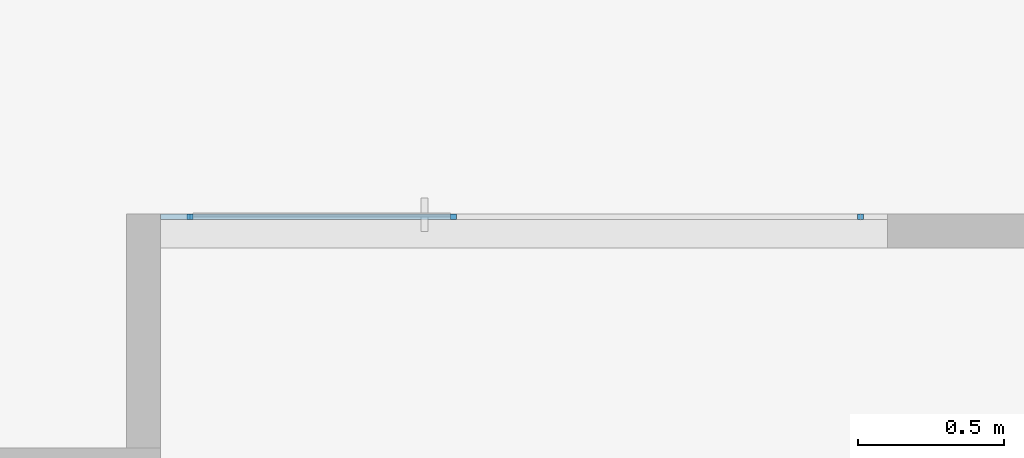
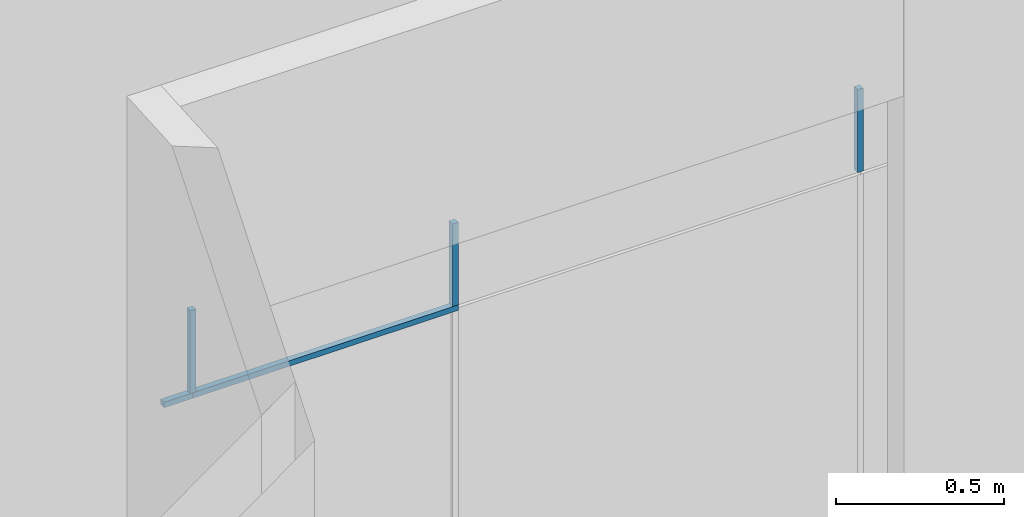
# One storey, part 10 of 46: 5 members, 1 element without a shape of its own.
"""IFC2X3 building model written with IfcOpenShell, lengths in millimetres."""

from ifc_helpers import new_model, entity, si_unit, converted_unit, derived_unit, direction, frame, origin, origin_2d_with_axis, place, context, subcontext, project, spatial, rectangle, extrude, source, transform, mapped, material, type_object, type_shapes, element, aggregate, save


model = new_model("IFC2X3")

# Units and contexts
model_context = context("Model", 3, precision=0.01, world=origin(), true_north=direction((6.12303176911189e-17, 1.0)))
body_context = subcontext(model_context, "Body", "Model", "MODEL_VIEW")
ifc_project = project(units=[si_unit("LENGTHUNIT", "METRE", prefix="MILLI"), si_unit("AREAUNIT", "SQUARE_METRE"), si_unit("VOLUMEUNIT", "CUBIC_METRE"), converted_unit("PLANEANGLEUNIT", "DEGREE", entity("IfcRatioMeasure", 0.0174532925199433), si_unit("PLANEANGLEUNIT", "RADIAN"), dimensions=[0, 0, 0, 0, 0, 0, 0]), si_unit("MASSUNIT", "GRAM", prefix="KILO"), derived_unit("MASSDENSITYUNIT", [(si_unit("MASSUNIT", "GRAM", prefix="KILO"), 1), (si_unit("LENGTHUNIT", "METRE"), -3)]), si_unit("TIMEUNIT", "SECOND"), si_unit("FREQUENCYUNIT", "HERTZ"), si_unit("THERMODYNAMICTEMPERATUREUNIT", "DEGREE_CELSIUS"), derived_unit("THERMALTRANSMITTANCEUNIT", [(si_unit("MASSUNIT", "GRAM", prefix="KILO"), 1), (si_unit("THERMODYNAMICTEMPERATUREUNIT", "KELVIN"), -1), (si_unit("TIMEUNIT", "SECOND"), -3)]), derived_unit("VOLUMETRICFLOWRATEUNIT", [(si_unit("LENGTHUNIT", "METRE"), 3), (si_unit("TIMEUNIT", "SECOND"), -1)]), si_unit("ELECTRICCURRENTUNIT", "AMPERE"), si_unit("ELECTRICVOLTAGEUNIT", "VOLT"), si_unit("POWERUNIT", "WATT"), si_unit("FORCEUNIT", "NEWTON", prefix="KILO"), si_unit("ILLUMINANCEUNIT", "LUX"), si_unit("LUMINOUSFLUXUNIT", "LUMEN"), si_unit("LUMINOUSINTENSITYUNIT", "CANDELA"), derived_unit("USERDEFINED", [(si_unit("MASSUNIT", "GRAM", prefix="KILO"), -1), (si_unit("LENGTHUNIT", "METRE"), -2), (si_unit("TIMEUNIT", "SECOND"), 3), (si_unit("LUMINOUSFLUXUNIT", "LUMEN"), 1)]), derived_unit("LINEARVELOCITYUNIT", [(si_unit("LENGTHUNIT", "METRE"), 1), (si_unit("TIMEUNIT", "SECOND"), -1)]), si_unit("PRESSUREUNIT", "PASCAL"), derived_unit("USERDEFINED", [(si_unit("LENGTHUNIT", "METRE"), -2), (si_unit("MASSUNIT", "GRAM", prefix="KILO"), 1), (si_unit("TIMEUNIT", "SECOND"), -2)])], contexts=[model_context])

# Site, building, storey
site_placement = place(None, frame((-151.875543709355, 2715.0, 0.0)))
site = spatial("IfcSite", under=ifc_project, at=site_placement, Name="Surface", CompositionType="ELEMENT")
building_placement = place(site_placement, origin())
building = spatial("IfcBuilding", under=site, at=building_placement, CompositionType="ELEMENT")
storey_placement = place(building_placement, frame((0.0, 0.0, 10060.0)))
storey = spatial("IfcBuildingStorey", under=building, at=storey_placement, Name="4 korrus", CompositionType="ELEMENT", Elevation=10060.0000000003)

# Curtain wall, members
curtain_wall_type = type_object("IfcCurtainWallType", Name="Curtain Wall:Klaassein KLS-20", PredefinedType="NOTDEFINED")
curtain_wall_placement = place(storey_placement, frame((0.0, 0.0, -10060.0)))
curtain_wall = element("IfcCurtainWall", 1, at=curtain_wall_placement, inside=storey, type_object=curtain_wall_type, Name="Curtain Wall:Klaassein KLS-20", ObjectType="Curtain Wall:Klaassein KLS-20")
ifc_material = material(Name="__Uks_hele tamm")
member_type_1 = type_object("IfcMemberType", Name="20 x 20mm", PredefinedType="MEMBER")
shared_shape_1 = source(origin(), body_context, "Body", "SweptSolid", [
    extrude(rectangle(XDim=20.0, YDim=20.0, at=origin_2d_with_axis()), frame((0.0, 0.0, -300.0), z_axis=(0.0, 0.0, 1.0), x_axis=(0.0, -1.0, 0.0)), (0.0, 0.0, 1.0), 299.999999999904),
])
type_shapes(member_type_1, [shared_shape_1])
member_1_placement = place(storey_placement, frame((29851.0878393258, 4355.04493399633, 2100.0), z_axis=(0.0, 0.0, -1.0), x_axis=(-1.0, 0.0, 0.0)))
member_1 = element("IfcMember", 2, at=member_1_placement, type_object=member_type_1, material=ifc_material, Name="Rectangular Mullion:20 x 20mm", ObjectType="20 x 20mm", context=body_context, shape_type="MappedRepresentation", body=[
    mapped(shared_shape_1, transform((0.0, 0.0, 0.0), scale=1.0)),
])
member_2_placement = place(storey_placement, frame((28461.564726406, 4355.04493399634, 2100.0), z_axis=(0.0, 0.0, -1.0), x_axis=(-1.0, 0.0, 0.0)))
member_2 = element("IfcMember", 3, at=member_2_placement, type_object=member_type_1, material=ifc_material, Name="Rectangular Mullion:20 x 20mm", ObjectType="20 x 20mm", context=body_context, shape_type="MappedRepresentation", body=[
    mapped(shared_shape_1, transform((0.0, 0.0, 0.0), scale=1.0)),
])
member_3_placement = place(storey_placement, frame((27561.564726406, 4355.04493399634, 2100.0), z_axis=(0.0, 0.0, -1.0), x_axis=(-1.0, 0.0, 0.0)))
member_3 = element("IfcMember", 4, at=member_3_placement, type_object=member_type_1, material=ifc_material, Name="Rectangular Mullion:20 x 20mm", ObjectType="20 x 20mm", context=body_context, shape_type="MappedRepresentation", body=[
    mapped(shared_shape_1, transform((0.0, 0.0, 0.0), scale=1.0)),
])
member_type_2 = type_object("IfcMemberType", Name="20 x 20mm", PredefinedType="MEMBER")
shared_shape_2 = source(origin(), body_context, "Body", "SweptSolid", [
    extrude(rectangle(XDim=20.0, YDim=20.0, at=origin_2d_with_axis()), frame((0.0, 0.0, -910.0), z_axis=(0.0, 0.0, 1.0), x_axis=(0.0, -1.0, 0.0)), (0.0, 0.0, 1.0), 909.999999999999),
])
type_shapes(member_type_2, [shared_shape_2])
member_4_placement = place(storey_placement, frame((27561.564726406, 4355.04493399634, 2090.0), z_axis=(-1.0, 0.0, 0.0), x_axis=(0.0, 0.0, 1.0)))
member_4 = element("IfcMember", 5, at=member_4_placement, type_object=member_type_2, material=ifc_material, Name="Rectangular Mullion:20 x 20mm", ObjectType="20 x 20mm", context=body_context, shape_type="MappedRepresentation", body=[
    mapped(shared_shape_2, transform((0.0, 0.0, 0.0), scale=1.0)),
])
member_type_3 = type_object("IfcMemberType", Name="20 x 20mm", PredefinedType="MEMBER")
shared_shape_3 = source(origin(), body_context, "Body", "SweptSolid", [
    extrude(rectangle(XDim=20.0, YDim=20.0, at=origin_2d_with_axis()), frame((0.0, 0.0, -100.0), z_axis=(0.0, 0.0, 1.0), x_axis=(0.0, -1.0, 0.0)), (0.0, 0.0, 1.0), 99.9999999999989),
])
type_shapes(member_type_3, [shared_shape_3])
member_5_placement = place(storey_placement, frame((27461.564726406, 4355.04493399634, 2090.0), z_axis=(-1.0, 0.0, 0.0), x_axis=(0.0, 0.0, 1.0)))
member_5 = element("IfcMember", 6, at=member_5_placement, type_object=member_type_3, material=ifc_material, Name="Rectangular Mullion:20 x 20mm", ObjectType="20 x 20mm", context=body_context, shape_type="MappedRepresentation", body=[
    mapped(shared_shape_3, transform((0.0, 0.0, 0.0), scale=1.0)),
])
aggregate(curtain_wall, [member_1, member_2, member_4, member_5, member_3])

save(model, "model.ifc")
